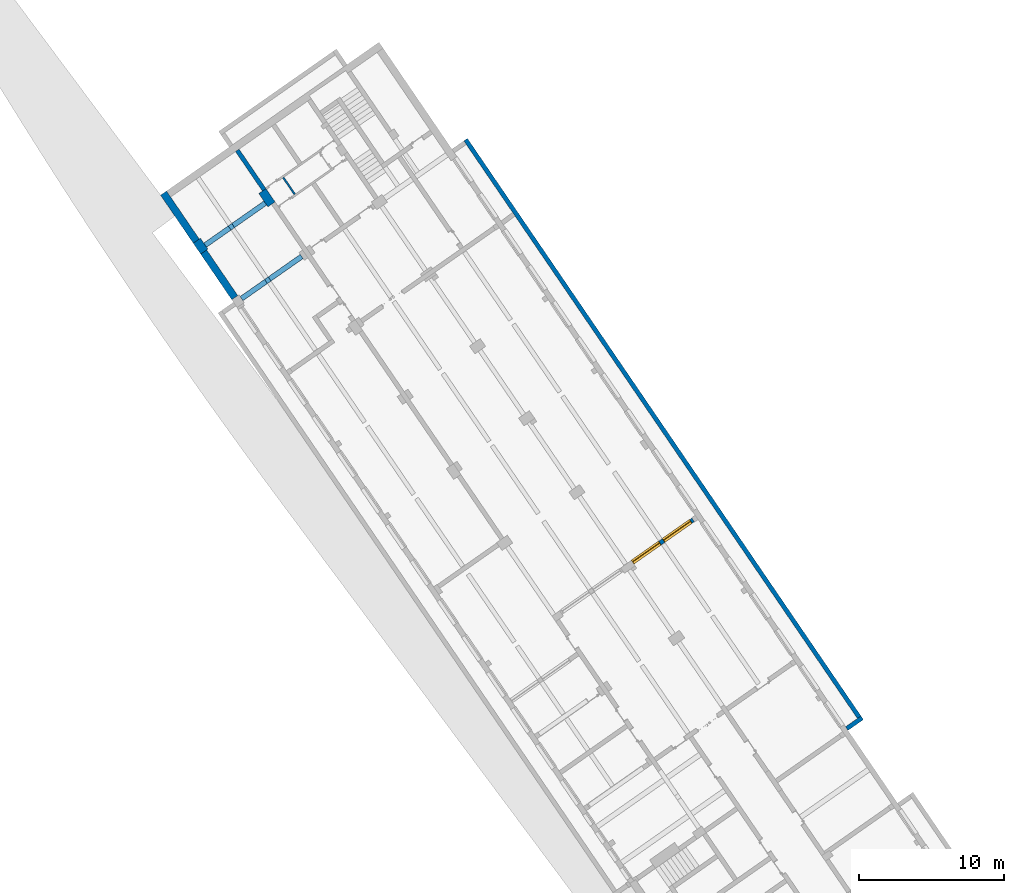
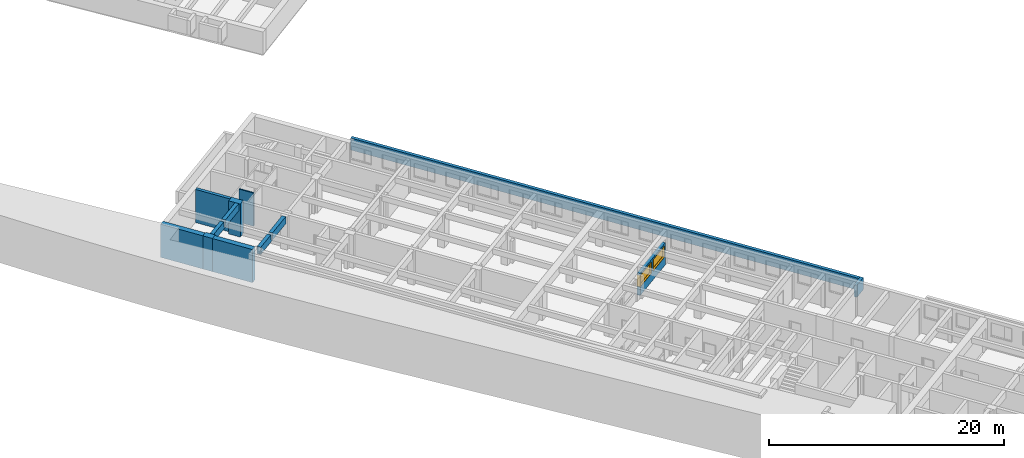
# One storey, part 65 of 112: 11 walls, 2 windows, 2 openings.
"""IFC2X3 building model written with IfcOpenShell, lengths in millimetres."""

from ifc_helpers import new_model, entity, si_unit, converted_unit, derived_unit, direction, frame, frame_2d, origin, place, context, subcontext, project, spatial, polyline, rectangle, outline, extrude, clip, bounded_halfspace, source, transform, mapped, material, material_list, layer, layer_set, layer_usage, type_object, type_shapes, element, fill, save


model = new_model("IFC2X3")

# Units and contexts
model_context = context("Model", 3, precision=0.01, world=origin(), true_north=direction((6.123031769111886e-17, 1.0)))
body_context = subcontext(model_context, "Body", "Model", "MODEL_VIEW")
ifc_project = project(units=[si_unit("LENGTHUNIT", "METRE", prefix="MILLI"), si_unit("AREAUNIT", "SQUARE_METRE"), si_unit("VOLUMEUNIT", "CUBIC_METRE"), converted_unit("PLANEANGLEUNIT", "DEGREE", entity("IfcRatioMeasure", 0.017453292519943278), si_unit("PLANEANGLEUNIT", "RADIAN"), dimensions=[0, 0, 0, 0, 0, 0, 0]), si_unit("MASSUNIT", "GRAM", prefix="KILO"), derived_unit("MASSDENSITYUNIT", [(si_unit("MASSUNIT", "GRAM", prefix="KILO"), 1), (si_unit("LENGTHUNIT", "METRE"), -3)]), derived_unit("MOMENTOFINERTIAUNIT", [(si_unit("LENGTHUNIT", "METRE"), 4)]), si_unit("TIMEUNIT", "SECOND"), si_unit("FREQUENCYUNIT", "HERTZ"), si_unit("THERMODYNAMICTEMPERATUREUNIT", "DEGREE_CELSIUS"), derived_unit("THERMALTRANSMITTANCEUNIT", [(si_unit("MASSUNIT", "GRAM", prefix="KILO"), 1), (si_unit("THERMODYNAMICTEMPERATUREUNIT", "KELVIN"), -1), (si_unit("TIMEUNIT", "SECOND"), -3)]), derived_unit("THERMALCONDUCTANCEUNIT", [(si_unit("MASSUNIT", "GRAM", prefix="KILO"), 1), (si_unit("LENGTHUNIT", "METRE"), 1), (si_unit("THERMODYNAMICTEMPERATUREUNIT", "KELVIN"), -1), (si_unit("TIMEUNIT", "SECOND"), -3)]), derived_unit("VOLUMETRICFLOWRATEUNIT", [(si_unit("LENGTHUNIT", "METRE"), 3), (si_unit("TIMEUNIT", "SECOND"), -1)]), derived_unit("MASSFLOWRATEUNIT", [(si_unit("MASSUNIT", "GRAM", prefix="KILO"), 1), (si_unit("TIMEUNIT", "SECOND"), -1)]), derived_unit("ROTATIONALFREQUENCYUNIT", [(si_unit("TIMEUNIT", "SECOND"), -1)]), si_unit("ELECTRICCURRENTUNIT", "AMPERE"), si_unit("ELECTRICVOLTAGEUNIT", "VOLT"), si_unit("POWERUNIT", "WATT"), converted_unit("FORCEUNIT", "KIP", entity("IfcRatioMeasure", 2.088543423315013e-05), si_unit("FORCEUNIT", "NEWTON"), dimensions=[1, 1, -2, 0, 0, 0, 0]), si_unit("ILLUMINANCEUNIT", "LUX"), si_unit("LUMINOUSFLUXUNIT", "LUMEN"), si_unit("LUMINOUSINTENSITYUNIT", "CANDELA"), derived_unit("USERDEFINED", [(si_unit("MASSUNIT", "GRAM", prefix="KILO"), -1), (si_unit("LENGTHUNIT", "METRE"), -2), (si_unit("TIMEUNIT", "SECOND"), 3), (si_unit("LUMINOUSFLUXUNIT", "LUMEN"), 1)]), derived_unit("USERDEFINED", [(si_unit("MASSUNIT", "GRAM", prefix="KILO"), 1), (si_unit("LENGTHUNIT", "METRE"), 3), (si_unit("TIMEUNIT", "SECOND"), -3), (si_unit("ELECTRICCURRENTUNIT", "AMPERE"), -2)]), derived_unit("USERDEFINED", [(si_unit("LENGTHUNIT", "METRE"), 2), (si_unit("TIMEUNIT", "SECOND"), -2)]), derived_unit("SOUNDPOWERUNIT", [(si_unit("MASSUNIT", "GRAM", prefix="KILO"), 1), (si_unit("LENGTHUNIT", "METRE"), 2), (si_unit("TIMEUNIT", "SECOND"), -3)]), derived_unit("SOUNDPRESSUREUNIT", [(si_unit("MASSUNIT", "GRAM", prefix="KILO"), 1), (si_unit("LENGTHUNIT", "METRE"), -1), (si_unit("TIMEUNIT", "SECOND"), -2)]), derived_unit("LINEARVELOCITYUNIT", [(si_unit("LENGTHUNIT", "METRE"), 1), (si_unit("TIMEUNIT", "SECOND"), -1)]), si_unit("PRESSUREUNIT", "PASCAL"), derived_unit("USERDEFINED", [(si_unit("LENGTHUNIT", "METRE"), -2), (si_unit("MASSUNIT", "GRAM", prefix="KILO"), 1), (si_unit("TIMEUNIT", "SECOND"), -2)]), derived_unit("LINEARFORCEUNIT", [(si_unit("MASSUNIT", "GRAM", prefix="KILO"), 1), (si_unit("LENGTHUNIT", "METRE"), 1), (si_unit("TIMEUNIT", "SECOND"), -2), (si_unit("LENGTHUNIT", "METRE"), -1)]), derived_unit("PLANARFORCEUNIT", [(si_unit("MASSUNIT", "GRAM", prefix="KILO"), 1), (si_unit("LENGTHUNIT", "METRE"), 1), (si_unit("TIMEUNIT", "SECOND"), -2), (si_unit("LENGTHUNIT", "METRE"), -2)]), derived_unit("SPECIFICHEATCAPACITYUNIT", [(si_unit("LENGTHUNIT", "METRE"), 2), (si_unit("TIMEUNIT", "SECOND"), -2), (si_unit("THERMODYNAMICTEMPERATUREUNIT", "KELVIN"), -1)]), derived_unit("VAPORPERMEABILITYUNIT", [(si_unit("TIMEUNIT", "SECOND"), 1), (si_unit("LENGTHUNIT", "METRE"), -1)]), derived_unit("DYNAMICVISCOSITYUNIT", [(si_unit("MASSUNIT", "GRAM", prefix="KILO"), 1), (si_unit("LENGTHUNIT", "METRE"), -1), (si_unit("TIMEUNIT", "SECOND"), -1)]), derived_unit("THERMALEXPANSIONCOEFFICIENTUNIT", [(si_unit("THERMODYNAMICTEMPERATUREUNIT", "KELVIN"), -1)])], contexts=[model_context])

# Site, building, storey
site_placement = place(None, frame((0.0, 0.0, 0.0), z_axis=(0.0, 0.0, 1.0), x_axis=(0.8191520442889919, 0.5735764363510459, 0.0)))
site = spatial("IfcSite", under=ifc_project, at=site_placement, Name="Default", CompositionType="ELEMENT")
building_placement = place(site_placement, origin())
building = spatial("IfcBuilding", under=site, at=building_placement, CompositionType="ELEMENT")
storey_placement = place(building_placement, frame((0.0, 0.0, -3600.0)))
storey = spatial("IfcBuildingStorey", under=building, at=storey_placement, Name="0.UG -3.60", CompositionType="ELEMENT", Elevation=-3600.0000000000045)

# Wall
ifc_material_1 = material(Name="Analytical Wall Surface_CJC")
ifc_layer_1 = layer(ifc_material_1, 300.0)
ifc_layer_set_1 = layer_set([ifc_layer_1], Name="Basic Wall:Wand_Innen_30")
ifc_layer_usage_1 = layer_usage(ifc_layer_set_1, "AXIS2", "POSITIVE", -150.0)
wall_type_1 = type_object("IfcWallType", Name="Basic Wall:Wand_Innen_30", PredefinedType="STANDARD", material=ifc_layer_set_1)
wall_1_placement = place(storey_placement, frame((-216316.228359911, 169233.85891435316, 0.0), z_axis=(0.0, 0.0, 1.0), x_axis=(0.012729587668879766, 0.9999189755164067, 0.0)))
element("IfcWallStandardCase", 1, at=wall_1_placement, inside=storey, type_object=wall_type_1, material=ifc_layer_usage_1, Name="Basic Wall:Wand_Innen_30", ObjectType="Basic Wall:Wand_Innen_30", context=body_context, shape_type="SweptSolid", body=[
    extrude(outline(polyline([(3289.6759824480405, -150.0), (3285.8567966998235, 150.0), (0.0, 150.0), (0.0, -150.0), (64.41465731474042, -150.0), (3289.6759824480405, -150.0)])), origin(), (0.0, 0.0, 1.0), 3450.0),
])

# Wall, openings, windows
ifc_layer_usage_2 = layer_usage(ifc_layer_set_1, "AXIS2", "NEGATIVE", 150.0)
wall_2_placement = place(storey_placement, frame((-210246.9331964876, 133696.35891435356, 0.0)))
wall_2 = element("IfcWallStandardCase", 2, at=wall_2_placement, inside=storey, type_object=wall_type_1, material=ifc_layer_usage_2, Name="Basic Wall:Wand_Innen_30", ObjectType="Basic Wall:Wand_Innen_30", context=body_context, shape_type="SweptSolid", body=[
    extrude(rectangle(XDim=5079.270210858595, YDim=300.00000000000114, at=frame_2d((2539.6351054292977, 1.8047785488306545e-12), x_axis=(-1.0, 0.0))), origin(), (0.0, 0.0, 1.0), 2300.0),
])
opening_1_placement = place(wall_2_placement, frame((0.0, -150.0, 900.0)))
opening_1 = element("IfcOpeningElement", 3, at=opening_1_placement, cuts=wall_2, Name="M_Instance-Window-Fixed:508x270:1", ObjectType="Opening", context=body_context, shape_type="SweptSolid", body=[
    extrude(rectangle(XDim=1200.0, YDim=2300.0, at=frame_2d((600.0, 1150.0), x_axis=(-1.0, 0.0))), frame((0.0, 0.0, 0.0), z_axis=(0.0, 1.0, 0.0), x_axis=(0.0, 0.0, 1.0)), (0.0, 0.0, 1.0), 300.0),
])
opening_2_placement = place(wall_2_placement, frame((2600.0, -150.0, 900.0)))
opening_2 = element("IfcOpeningElement", 4, at=opening_2_placement, cuts=wall_2, Name="M_Instance-Window-Fixed:508x270:1", ObjectType="Opening", context=body_context, shape_type="SweptSolid", body=[
    extrude(rectangle(XDim=1200.0, YDim=2300.0, at=frame_2d((600.0, 1150.0), x_axis=(-1.0, 0.0))), frame((0.0, 0.0, 0.0), z_axis=(0.0, 1.0, 0.0), x_axis=(0.0, 0.0, 1.0)), (0.0, 0.0, 1.0), 300.0),
])
ifc_material_2 = material(Name="Sash")
ifc_material_3 = material(Name="Glass")
ifc_material_4 = material(Name="<Unnamed>")
ifc_material_list = material_list([ifc_material_2, ifc_material_3, ifc_material_4])
window_style = type_object("IfcWindowStyle", Name="M_Instance-Window-Fixed:508x270", ConstructionType="NOTDEFINED", OperationType="NOTDEFINED", ParameterTakesPrecedence=False, Sizeable=False, material=ifc_material_list)
shared_shape = source(origin(), body_context, "Body", "SweptSolid", [
    extrude(rectangle(XDim=25.400000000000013, YDim=2300.0000000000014, at=frame_2d((1.687538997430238e-14, 0.0), x_axis=(1.0, 0.0))), frame((1150.0, 312.70000000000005, 0.0), z_axis=(0.0, 0.0, 1.0), x_axis=(0.0, -1.0, 0.0)), (0.0, 0.0, 1.0), 19.049999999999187),
    extrude(rectangle(XDim=12.699999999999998, YDim=2172.9999999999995, at=frame_2d((-4.440892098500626e-15, 0.0), x_axis=(1.0, 0.0))), frame((1150.0, 177.77500000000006, 63.49999999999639), z_axis=(0.0, 0.0, 1.0), x_axis=(0.0, 1.0, 0.0)), (0.0, 0.0, 1.0), 1073.0000000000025),
    extrude(outline(polyline([(-1130.9499999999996, -580.9500000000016), (1130.9499999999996, -580.9500000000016), (1130.9499999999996, 580.9500000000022), (-1130.9499999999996, 580.9500000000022), (-1130.9499999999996, -580.9500000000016)]), holes=[polyline([(-1086.4999999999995, -536.5000000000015), (-1086.4999999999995, 536.5000000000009), (1086.5, 536.5000000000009), (1086.5, -536.5000000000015), (-1086.4999999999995, -536.5000000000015)])]), frame((1150.0, 155.55000000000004, 600.0), z_axis=(0.0, 1.0, 0.0), x_axis=(1.0, 0.0, 0.0)), (0.0, 0.0, 1.0), 44.449999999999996),
    extrude(outline(polyline([(-1150.0, -600.0), (1150.0, -600.0), (1150.0, 600.0), (-1150.0, 600.0), (-1150.0, -600.0)]), holes=[polyline([(-1118.2500000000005, -568.2499999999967), (-1118.2500000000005, 568.2500000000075), (1118.249999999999, 568.2500000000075), (1118.249999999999, -568.2499999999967), (-1118.2500000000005, -568.2499999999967)])]), frame((1150.0, 0.0, 600.0), z_axis=(0.0, 1.0, 0.0), x_axis=(1.0, 0.0, 0.0)), (0.0, 0.0, 1.0), 155.55000000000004),
    extrude(outline(polyline([(-600.0, -1150.0), (600.0, -1150.0), (600.0, 1150.0), (-600.0, 1150.0), (-600.0, -1150.0)]), holes=[polyline([(-580.9499999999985, -1130.9499999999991), (-580.9499999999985, 1130.9500000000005), (580.9500000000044, 1130.9500000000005), (580.9500000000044, -1130.9499999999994), (-580.9499999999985, -1130.9499999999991)])]), frame((1150.0, 155.55000000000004, 600.0), z_axis=(0.0, 1.0, 0.0), x_axis=(0.0, 0.0, -1.0)), (0.0, 0.0, 1.0), 144.45),
])
type_shapes(window_style, [shared_shape])
window_1_placement = place(opening_1_placement, origin())
window_1 = element("IfcWindow", 5, at=window_1_placement, inside=storey, type_object=window_style, material=ifc_material_list, Name="M_Instance-Window-Fixed:508x270", ObjectType="M_Instance-Window-Fixed:508x270", OverallHeight=1200.0, OverallWidth=2299.999999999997, context=body_context, shape_type="MappedRepresentation", body=[
    mapped(shared_shape, transform((0.0, 0.0, 0.0), scale=1.0)),
])
fill(opening_1, window_1)
window_2_placement = place(opening_2_placement, origin())
window_2 = element("IfcWindow", 6, at=window_2_placement, inside=storey, type_object=window_style, material=ifc_material_list, Name="M_Instance-Window-Fixed:508x270", ObjectType="M_Instance-Window-Fixed:508x270", OverallHeight=1200.0, OverallWidth=2299.999999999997, context=body_context, shape_type="MappedRepresentation", body=[
    mapped(shared_shape, transform((0.0, 0.0, 0.0), scale=1.0)),
])
fill(opening_2, window_2)

# Walls
ifc_layer_2 = layer(ifc_material_1, 350.0)
ifc_layer_set_2 = layer_set([ifc_layer_2], Name="Basic Wall:Wand_Innen_35")
ifc_layer_usage_3 = layer_usage(ifc_layer_set_2, "AXIS2", "POSITIVE", -175.0)
wall_type_2 = type_object("IfcWallType", Name="Basic Wall:Wand_Innen_35", PredefinedType="STANDARD", material=ifc_layer_set_2)
wall_3_placement = place(storey_placement, frame((-221885.57306127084, 163996.35891435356, 2700.0)))
element("IfcWallStandardCase", 7, at=wall_3_placement, inside=storey, type_object=wall_type_2, material=ifc_layer_usage_3, Name="Basic Wall:Wand_Innen_35", ObjectType="Basic Wall:Wand_Innen_35", context=body_context, shape_type="Clipping", body=[
    clip(extrude(outline(polyline([(5052.667971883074, -175.0), (5052.667971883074, 175.0), (4.4518456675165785, 175.0), (0.0, -175.0), (5052.667971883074, -175.0)])), origin(), (0.0, 0.0, 1.0), 750.0), bounded_halfspace(frame((2353.81779168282, -175.0, 200.0), z_axis=(0.0, 0.0, -1.0), x_axis=(-0.9999189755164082, 0.012729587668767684, 0.0)), True, frame((2353.81779168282, -175.0, 200.0), z_axis=(0.0, 0.0, -1.0), x_axis=(-0.9999189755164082, 0.012729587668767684, 0.0)), polyline([(0.0, 0.0), (300.0, -3.8191857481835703), (300.0, 346.2091751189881), (0.0, 350.0283608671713), (0.0, 0.0)]))),
])
wall_4_placement = place(storey_placement, frame((-221828.92725162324, 168446.35891435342, 2700.0)))
element("IfcWallStandardCase", 8, at=wall_4_placement, inside=storey, type_object=wall_type_2, material=ifc_layer_usage_3, Name="Basic Wall:Wand_Innen_35", ObjectType="Basic Wall:Wand_Innen_35", context=body_context, shape_type="Clipping", body=[
    clip(extrude(outline(polyline([(5050.40920679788, -175.0), (5054.864923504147, 175.0), (4.455716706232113, 175.0), (0.0, -175.0), (5050.40920679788, -175.0)])), origin(), (0.0, 0.0, 1.0), 750.0), bounded_halfspace(frame((2353.823237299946, -175.0, 200.0), z_axis=(0.0, 0.0, -1.0), x_axis=(-0.9999189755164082, 0.012729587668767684, 0.0)), True, frame((2353.823237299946, -175.0, 200.0), z_axis=(0.0, 0.0, -1.0), x_axis=(-0.9999189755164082, 0.012729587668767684, 0.0)), polyline([(0.0, 0.0), (300.0, -3.8191857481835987), (300.0, 346.2091751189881), (0.0, 350.0283608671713), (0.0, 0.0)]))),
])
ifc_layer_3 = layer(ifc_material_1, 500.00000000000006)
ifc_layer_set_3 = layer_set([ifc_layer_3], Name="Basic Wall:Wand_Aussen_50")
ifc_layer_usage_4 = layer_usage(ifc_layer_set_3, "AXIS2", "NEGATIVE", 250.00000000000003)
wall_type_3 = type_object("IfcWallType", Name="Basic Wall:Wand_Aussen_50", PredefinedType="STANDARD", material=ifc_layer_set_3)
wall_5_placement = place(storey_placement, frame((-222229.28205798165, 164318.17762317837, 0.0), z_axis=(0.0, 0.0, 1.0), x_axis=(0.01272958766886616, 0.9999189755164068, 0.0)))
element("IfcWallStandardCase", 9, at=wall_5_placement, inside=storey, type_object=wall_type_3, material=ifc_layer_usage_4, Name="Basic Wall:Wand_Aussen_50", ObjectType="Basic Wall:Wand_Aussen_50", context=body_context, shape_type="SweptSolid", body=[
    extrude(rectangle(XDim=3800.3068121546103, YDim=500.00000000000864, at=frame_2d((1900.1534060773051, -3.197442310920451e-12), x_axis=(-1.0, 0.0))), origin(), (0.0, 0.0, 1.0), 3450.0),
])
wall_6_placement = place(storey_placement, frame((-222169.3527852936, 169025.66843187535, 0.0), z_axis=(0.0, 0.0, 1.0), x_axis=(0.01272958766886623, 0.9999189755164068, 0.0)))
element("IfcWallStandardCase", 10, at=wall_6_placement, inside=storey, type_object=wall_type_3, material=ifc_layer_usage_4, Name="Basic Wall:Wand_Aussen_50", ObjectType="Basic Wall:Wand_Aussen_50", context=body_context, shape_type="SweptSolid", body=[
    extrude(outline(polyline([(3999.196912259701, -250.0), (3992.8316026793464, 250.0), (0.0, 250.0), (0.0, -250.0), (3499.156396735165, -250.0), (3999.196912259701, -250.0)])), origin(), (0.0, 0.0, 1.0), 3450.0),
])
ifc_layer_4 = layer(ifc_material_1, 600.0)
ifc_layer_set_4 = layer_set([ifc_layer_4], Name="Basic Wall:Wand_Innen_60")
ifc_layer_usage_5 = layer_usage(ifc_layer_set_4, "AXIS2", "POSITIVE", -300.0)
wall_type_4 = type_object("IfcWallType", Name="Basic Wall:Wand_Innen_60", PredefinedType="STANDARD", material=ifc_layer_set_4)
wall_7_placement = place(storey_placement, frame((-216480.3547117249, 168125.1777906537, 0.0), z_axis=(0.0, 0.0, 1.0), x_axis=(0.0127295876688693, 0.9999189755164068, 0.0)))
element("IfcWallStandardCase", 11, at=wall_7_placement, inside=storey, type_object=wall_type_4, material=ifc_layer_usage_5, Name="Basic Wall:Wand_Innen_60", ObjectType="Basic Wall:Wand_Innen_60", context=body_context, shape_type="SweptSolid", body=[
    extrude(rectangle(XDim=1108.7709612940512, YDim=600.0000000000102, at=frame_2d((554.3854806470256, -9.29389898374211e-12), x_axis=(-1.0, 0.0))), origin(), (0.0, 0.0, 1.0), 3450.000000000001),
])
ifc_layer_usage_6 = layer_usage(ifc_layer_set_4, "AXIS2", "NEGATIVE", 300.0)
wall_8_placement = place(storey_placement, frame((-222130.9097704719, 168117.5400380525, 0.0), z_axis=(0.0, 0.0, 1.0), x_axis=(0.01272958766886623, 0.9999189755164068, 0.0)))
element("IfcWallStandardCase", 12, at=wall_8_placement, inside=storey, type_object=wall_type_4, material=ifc_layer_usage_6, Name="Basic Wall:Wand_Innen_60", ObjectType="Basic Wall:Wand_Innen_60", context=body_context, shape_type="SweptSolid", body=[
    extrude(rectangle(XDim=907.5654494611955, YDim=600.0000000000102, at=frame_2d((453.78272473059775, 7.844391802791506e-12), x_axis=(-1.0, 0.0))), origin(), (0.0, 0.0, 1.0), 3450.0),
])
ifc_layer_5 = layer(ifc_material_1, 300.0)
ifc_layer_set_5 = layer_set([ifc_layer_5], Name="Basic Wall:Wand_Aussen_30")
ifc_layer_usage_7 = layer_usage(ifc_layer_set_5, "AXIS2", "POSITIVE", -150.0)
wall_type_5 = type_object("IfcWallType", Name="Basic Wall:Wand_Aussen_30", PredefinedType="STANDARD", material=ifc_layer_set_5)
wall_9_placement = place(storey_placement, frame((-204746.48300043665, 115871.3589143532, 1600.0)))
element("IfcWallStandardCase", 13, at=wall_9_placement, inside=storey, type_object=wall_type_5, material=ifc_layer_usage_7, Name="Basic Wall:Wand_Aussen_30", ObjectType="Basic Wall:Wand_Aussen_30", context=body_context, shape_type="SweptSolid", body=[
    extrude(outline(polyline([(1300.1053534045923, -150.0), (1303.9245391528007, 150.0), (1003.9002298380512, 150.0), (3.8191987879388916, 150.0), (0.0, -150.0), (1300.1053534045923, -150.0)])), origin(), (0.0, 0.0, 1.0), 1250.0),
])
wall_10_placement = place(storey_placement, frame((-203592.5949242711, 116019.44947620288, 1600.0), z_axis=(0.0, 0.0, 1.0), x_axis=(0.012729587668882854, 0.9999189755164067, 0.0)))
element("IfcWallStandardCase", 14, at=wall_10_placement, inside=storey, type_object=wall_type_5, material=ifc_layer_usage_7, Name="Basic Wall:Wand_Aussen_30", ObjectType="Basic Wall:Wand_Aussen_30", context=body_context, shape_type="SweptSolid", body=[
    extrude(outline(polyline([(48098.23472741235, -150.0), (48094.41554166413, 150.0), (47794.3912323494, 150.0), (0.0, 150.0), (3.819185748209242, -150.0), (48098.23472741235, -150.0)])), origin(), (0.0, 0.0, 1.0), 1250.0),
])
ifc_layer_6 = layer(ifc_material_1, 125.00000000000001)
ifc_layer_set_6 = layer_set([ifc_layer_6], Name="Basic Wall:Wand_Innen_12.5")
ifc_layer_usage_8 = layer_usage(ifc_layer_set_6, "AXIS2", "NEGATIVE", 62.50000000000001)
wall_type_6 = type_object("IfcWallType", Name="Basic Wall:Wand_Innen_12.5", PredefinedType="STANDARD", material=ifc_layer_set_6)
wall_11_placement = place(storey_placement, frame((-214771.45524737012, 167770.584074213, 0.0), z_axis=(0.0, 0.0, 1.0), x_axis=(0.012397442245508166, 0.9999231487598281, 0.0)))
element("IfcWallStandardCase", 15, at=wall_11_placement, inside=storey, type_object=wall_type_6, material=ifc_layer_usage_8, Name="Basic Wall:Wand_Innen_12.5", ObjectType="Basic Wall:Wand_Innen_12.5", context=body_context, shape_type="SweptSolid", body=[
    extrude(outline(polyline([(1401.6573993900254, -62.50000000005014), (1400.1076000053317, 62.49999999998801), (0.0, 62.49999999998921), (1.549799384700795, -62.50000000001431), (1401.6573993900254, -62.50000000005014)])), origin(), (0.0, 0.0, 1.0), 3450.0),
])

save(model, "model.ifc")
